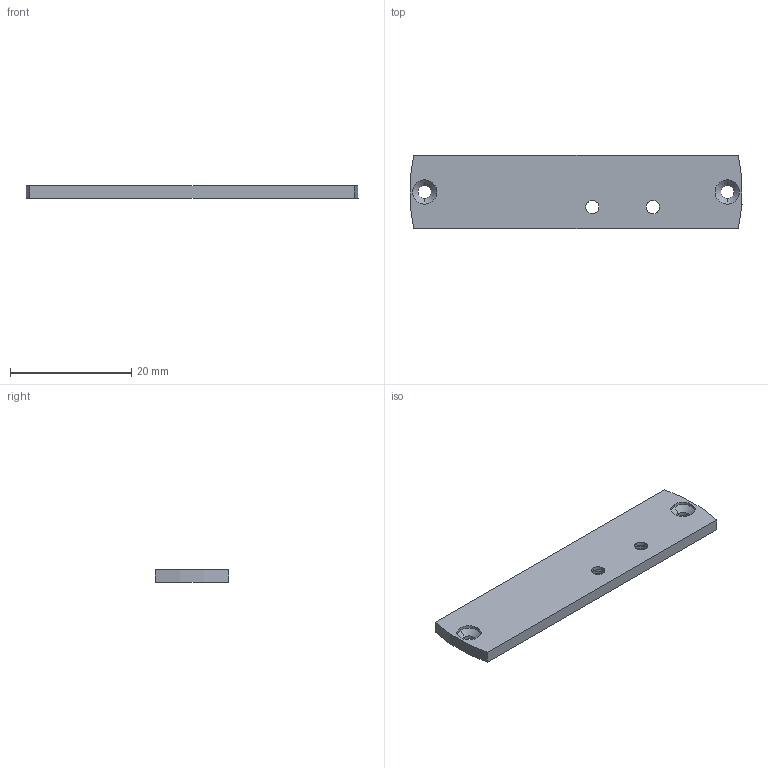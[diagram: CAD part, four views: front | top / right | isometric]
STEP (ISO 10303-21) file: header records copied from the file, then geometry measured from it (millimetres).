
FILE_DESCRIPTION(/* description */ ('VariCAD 2008 3.04 AP-203'),/* implementation_level */ '2;1');
FILE_NAME(/* name */ '0353-19-14',/* time_stamp */ '2009-04-25T10:57:34-06:00',/* author */ (''),/* organization */ (''),/* preprocessor_version */ 'ST-DEVELOPER v12',/* originating_system */ 'VariCAD 2008 3.04; kernel version (20080715)',/* authorisation */ '');
FILE_SCHEMA (('CONFIG_CONTROL_DESIGN'));
Length unit declared in the file: millimetre
Products named in the file (1): Part
Bounding box: 54.85 x 12.2 x 2 mm (x, y, z)
Volume: 1268.7 mm3; surface area: 1620.5 mm2
Topology: 1 solids, 1 shells, 30 faces, 68 edges, 40 vertices
Faces by surface type: cylinder 18, cone 8, plane 4
Entity records: 902 total; most frequent: DIRECTION 168, CARTESIAN_POINT 140, ORIENTED_EDGE 136, EDGE_CURVE 68, AXIS2_PLACEMENT_3D 68, VERTEX_POINT 40, EDGE_LOOP 38, CIRCLE 36
